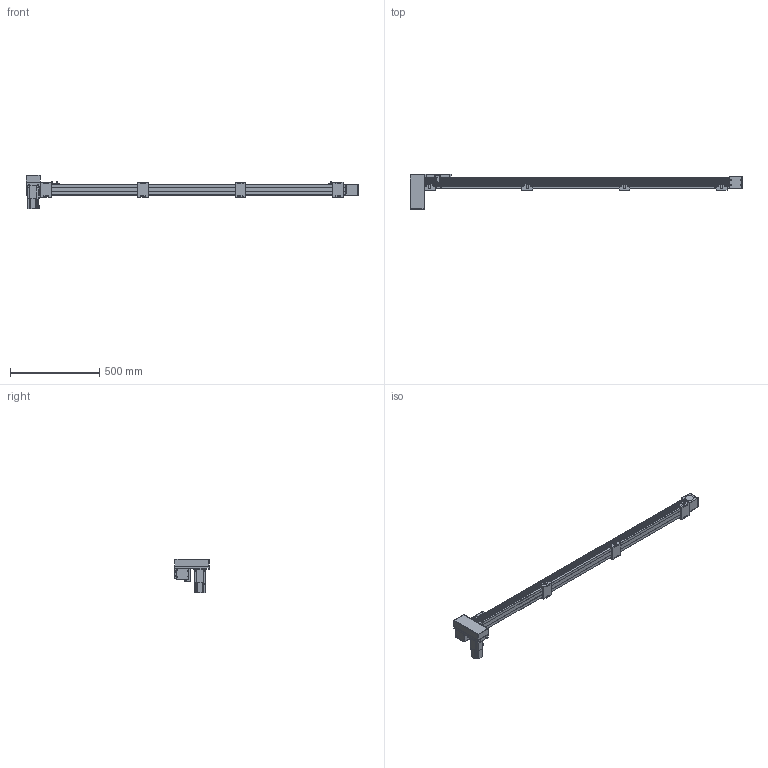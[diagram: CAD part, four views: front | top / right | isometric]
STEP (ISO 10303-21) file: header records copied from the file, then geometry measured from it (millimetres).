
FILE_DESCRIPTION(/* description */ ('STEP AP214'),/* implementation_level */ '2;1');
FILE_NAME(/* name */ 'SK60-P13-S1550-RD-T40-C1-N(0)',/* time_stamp */ '2023-04-06T04:56:07+02:00',/* author */ ('License CC BY-ND 4.0'),/* organization */ ('CADENAS'),/* preprocessor_version */ 'ST-DEVELOPER v19.3',/* originating_system */ 'PARTsolutions',/* authorisation */ ' ');
FILE_SCHEMA (('AUTOMOTIVE_DESIGN {1 0 10303 214 3 1 1}'));
Length unit declared in the file: millimetre
Products named in the file (10): SK60-P13-S1550-RD-T40-C1-N(0); PSC140-sensor; SK60-S450_seat; SK60-S450-BL-C1_slider; SK60_body3; SK60_body6; SK60-BL_body2; T40-p1; SK60-RD_fb; SK60-S1550-RD-C1_body
Assembly tree (18 placements, depth 2):
  SK60-P13-S1550-RD-T40-C1-N(0)
    PSC140-sensor  x3
    SK60-S450_seat  x4
    SK60-S450-BL-C1_slider
    SK60_body3  x3
    SK60_body6  x2
    SK60-BL_body2  x2
    T40-p1
    SK60-RD_fb
    SK60-S1550-RD-C1_body
Bounding box: 1855.5 x 199 x 189.7 mm (x, y, z)
Volume: 7529958.4 mm3; surface area: 921394.8 mm2
Topology: 18 solids, 18 shells, 898 faces, 2244 edges, 1477 vertices
Faces by surface type: plane 572, cylinder 294, cone 30, torus 2
Full cylindrical faces by diameter (mm): 2.8 x3, 3.3 x4, 4 x2, 4.5 x30, 4.6 x3, 4.917 x24, 5 x6, 5.478 x4, 5.5 x27, 6.5 x8, 7 x2, 8 x4, 8.5 x4, 9.988 x4, 10 x16, 14 x1, 47 x3, 50 x2
Entity records: 18671 total; most frequent: DIRECTION 3188, CARTESIAN_POINT 3152, ORIENTED_EDGE 2940, EDGE_CURVE 1470, AXIS2_PLACEMENT_3D 1070, LINE 1048, VECTOR 1048, VERTEX_POINT 1034
